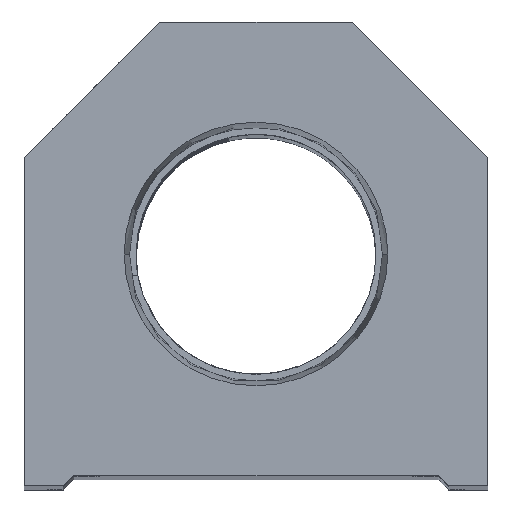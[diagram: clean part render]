
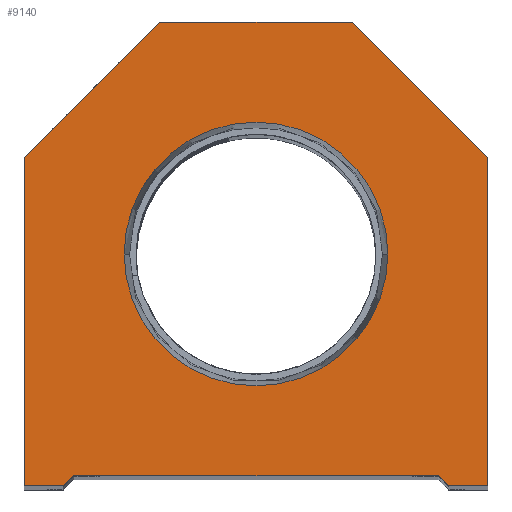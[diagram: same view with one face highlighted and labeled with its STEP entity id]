
A CAD part, top view. The second image highlights one B-rep face of the part: STEP entity #9140.
In plain terms, the highlighted planar face has unit normal (0, 0, 1).
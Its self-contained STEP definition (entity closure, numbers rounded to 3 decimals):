
#234 = FACE_OUTER_BOUND ( 'NONE', #2914, .T. ) ;
#362 = CARTESIAN_POINT ( 'NONE',  ( 9.25, 44.5, 0. ) ) ;
#999 = CARTESIAN_POINT ( 'NONE',  ( -12.647, 22.25, 0. ) ) ;
#1443 = EDGE_CURVE ( 'NONE', #2215, #16970, #18335, .T. ) ;
#1948 = VECTOR ( 'NONE', #18484, 1000. ) ;
#1957 = EDGE_CURVE ( 'NONE', #19188, #15370, #6605, .T. ) ;
#1972 = DIRECTION ( 'NONE',  ( 0., 0., 1. ) ) ;
#2008 = CARTESIAN_POINT ( 'NONE',  ( -22.25, 0., 0. ) ) ;
#2122 = DIRECTION ( 'NONE',  ( 0., 0., 1. ) ) ;
#2130 = VECTOR ( 'NONE', #12512, 1000. ) ;
#2215 = VERTEX_POINT ( 'NONE', #19439 ) ;
#2315 = VERTEX_POINT ( 'NONE', #8499 ) ;
#2465 = CARTESIAN_POINT ( 'NONE',  ( -17.5, 1., 0. ) ) ;
#2914 = EDGE_LOOP ( 'NONE', ( #6882, #12550, #6082, #10459, #14680, #17963, #14324, #3234, #20007, #11176 ) ) ;
#2933 = CARTESIAN_POINT ( 'NONE',  ( 22.25, 31.5, 0. ) ) ;
#3234 = ORIENTED_EDGE ( 'NONE', *, *, #8916, .T. ) ;
#3264 = VERTEX_POINT ( 'NONE', #17362 ) ;
#3286 = DIRECTION ( 'NONE',  ( 1., 0., 0. ) ) ;
#3355 = DIRECTION ( 'NONE',  ( 0.707, 0.707, 0. ) ) ;
#3461 = LINE ( 'NONE', #11215, #15938 ) ;
#3638 = DIRECTION ( 'NONE',  ( 0., -1., 0. ) ) ;
#3770 = VECTOR ( 'NONE', #3638, 1000. ) ;
#3806 = DIRECTION ( 'NONE',  ( 1., 0., 0. ) ) ;
#3976 = DIRECTION ( 'NONE',  ( 0.707, -0.707, 0. ) ) ;
#4134 = CARTESIAN_POINT ( 'NONE',  ( -22.25, 0., 0. ) ) ;
#4376 = EDGE_CURVE ( 'NONE', #17482, #13766, #11073, .T. ) ;
#4524 = DIRECTION ( 'NONE',  ( 0., 1., 0. ) ) ;
#4692 = CARTESIAN_POINT ( 'NONE',  ( -22.25, 31.5, 0. ) ) ;
#4811 = FACE_BOUND ( 'NONE', #18080, .T. ) ;
#4995 = EDGE_CURVE ( 'NONE', #15370, #13950, #3461, .T. ) ;
#5099 = VERTEX_POINT ( 'NONE', #2933 ) ;
#5400 = LINE ( 'NONE', #13290, #19358 ) ;
#5412 = DIRECTION ( 'NONE',  ( 0., 0., 1. ) ) ;
#6082 = ORIENTED_EDGE ( 'NONE', *, *, #7599, .T. ) ;
#6605 = LINE ( 'NONE', #9776, #9109 ) ;
#6826 = AXIS2_PLACEMENT_3D ( 'NONE', #6959, #5412, #11673 ) ;
#6882 = ORIENTED_EDGE ( 'NONE', *, *, #1957, .T. ) ;
#6959 = CARTESIAN_POINT ( 'NONE',  ( 0., 22.25, 0. ) ) ;
#7028 = AXIS2_PLACEMENT_3D ( 'NONE', #14117, #1972, #3286 ) ;
#7599 = EDGE_CURVE ( 'NONE', #13950, #2215, #5400, .T. ) ;
#8205 = CARTESIAN_POINT ( 'NONE',  ( 9.25, 44.5, 0. ) ) ;
#8408 = DIRECTION ( 'NONE',  ( -0.707, -0.707, 0. ) ) ;
#8499 = CARTESIAN_POINT ( 'NONE',  ( 22.25, 0., 0. ) ) ;
#8691 = EDGE_CURVE ( 'NONE', #2315, #5099, #18529, .T. ) ;
#8728 = VECTOR ( 'NONE', #8408, 1000. ) ;
#8916 = EDGE_CURVE ( 'NONE', #18557, #17482, #14242, .T. ) ;
#9025 = CARTESIAN_POINT ( 'NONE',  ( -18.5, 0., 0. ) ) ;
#9109 = VECTOR ( 'NONE', #17268, 1000. ) ;
#9140 = ADVANCED_FACE ( 'NONE', ( #4811, #234 ), #18910, .T. ) ;
#9739 = LINE ( 'NONE', #2008, #3770 ) ;
#9776 = CARTESIAN_POINT ( 'NONE',  ( -17.5, 0., 0. ) ) ;
#9894 = DIRECTION ( 'NONE',  ( 1., 0., 0. ) ) ;
#10192 = CARTESIAN_POINT ( 'NONE',  ( 18.5, 0., 0. ) ) ;
#10459 = ORIENTED_EDGE ( 'NONE', *, *, #1443, .T. ) ;
#10830 = ORIENTED_EDGE ( 'NONE', *, *, #13722, .F. ) ;
#11073 = LINE ( 'NONE', #13012, #8728 ) ;
#11176 = ORIENTED_EDGE ( 'NONE', *, *, #18542, .T. ) ;
#11215 = CARTESIAN_POINT ( 'NONE',  ( -9.25, 9.25, 0. ) ) ;
#11507 = CARTESIAN_POINT ( 'NONE',  ( 0., 22.25, 0. ) ) ;
#11673 = DIRECTION ( 'NONE',  ( 1., 0., 0. ) ) ;
#12261 = CARTESIAN_POINT ( 'NONE',  ( 22.25, 31.5, 0. ) ) ;
#12512 = DIRECTION ( 'NONE',  ( -1., 0., 0. ) ) ;
#12532 = CARTESIAN_POINT ( 'NONE',  ( -9.25, 44.5, 0. ) ) ;
#12550 = ORIENTED_EDGE ( 'NONE', *, *, #4995, .T. ) ;
#12795 = EDGE_CURVE ( 'NONE', #5099, #18557, #18585, .T. ) ;
#12802 = AXIS2_PLACEMENT_3D ( 'NONE', #11507, #2122, #16529 ) ;
#13012 = CARTESIAN_POINT ( 'NONE',  ( -22.25, 31.5, 0. ) ) ;
#13290 = CARTESIAN_POINT ( 'NONE',  ( -17.5, 1., 0. ) ) ;
#13643 = CARTESIAN_POINT ( 'NONE',  ( 9.25, 9.25, 0. ) ) ;
#13722 = EDGE_CURVE ( 'NONE', #14902, #3264, #15667, .T. ) ;
#13766 = VERTEX_POINT ( 'NONE', #4692 ) ;
#13950 = VERTEX_POINT ( 'NONE', #2465 ) ;
#14117 = CARTESIAN_POINT ( 'NONE',  ( 0., 0., 0. ) ) ;
#14242 = LINE ( 'NONE', #362, #2130 ) ;
#14324 = ORIENTED_EDGE ( 'NONE', *, *, #12795, .T. ) ;
#14325 = ORIENTED_EDGE ( 'NONE', *, *, #15182, .F. ) ;
#14680 = ORIENTED_EDGE ( 'NONE', *, *, #18951, .T. ) ;
#14902 = VERTEX_POINT ( 'NONE', #999 ) ;
#15182 = EDGE_CURVE ( 'NONE', #3264, #14902, #17072, .T. ) ;
#15370 = VERTEX_POINT ( 'NONE', #9025 ) ;
#15382 = CARTESIAN_POINT ( 'NONE',  ( 22.25, 0., 0. ) ) ;
#15667 = CIRCLE ( 'NONE', #6826, 12.647 ) ;
#15938 = VECTOR ( 'NONE', #3355, 1000. ) ;
#15952 = CARTESIAN_POINT ( 'NONE',  ( 17.5, 0., 0. ) ) ;
#16507 = VECTOR ( 'NONE', #9894, 1000. ) ;
#16529 = DIRECTION ( 'NONE',  ( 1., 0., 0. ) ) ;
#16970 = VERTEX_POINT ( 'NONE', #10192 ) ;
#17072 = CIRCLE ( 'NONE', #12802, 12.647 ) ;
#17268 = DIRECTION ( 'NONE',  ( 1., 0., 0. ) ) ;
#17362 = CARTESIAN_POINT ( 'NONE',  ( 12.647, 22.25, 0. ) ) ;
#17482 = VERTEX_POINT ( 'NONE', #12532 ) ;
#17594 = VECTOR ( 'NONE', #3976, 1000. ) ;
#17963 = ORIENTED_EDGE ( 'NONE', *, *, #8691, .T. ) ;
#18080 = EDGE_LOOP ( 'NONE', ( #14325, #10830 ) ) ;
#18335 = LINE ( 'NONE', #13643, #17594 ) ;
#18484 = DIRECTION ( 'NONE',  ( -0.707, 0.707, 0. ) ) ;
#18529 = LINE ( 'NONE', #15382, #19718 ) ;
#18542 = EDGE_CURVE ( 'NONE', #13766, #19188, #9739, .T. ) ;
#18557 = VERTEX_POINT ( 'NONE', #8205 ) ;
#18585 = LINE ( 'NONE', #12261, #1948 ) ;
#18910 = PLANE ( 'NONE',  #7028 ) ;
#18951 = EDGE_CURVE ( 'NONE', #16970, #2315, #19298, .T. ) ;
#19188 = VERTEX_POINT ( 'NONE', #4134 ) ;
#19298 = LINE ( 'NONE', #15952, #16507 ) ;
#19358 = VECTOR ( 'NONE', #3806, 1000. ) ;
#19439 = CARTESIAN_POINT ( 'NONE',  ( 17.5, 1., 0. ) ) ;
#19718 = VECTOR ( 'NONE', #4524, 1000. ) ;
#20007 = ORIENTED_EDGE ( 'NONE', *, *, #4376, .T. ) ;
